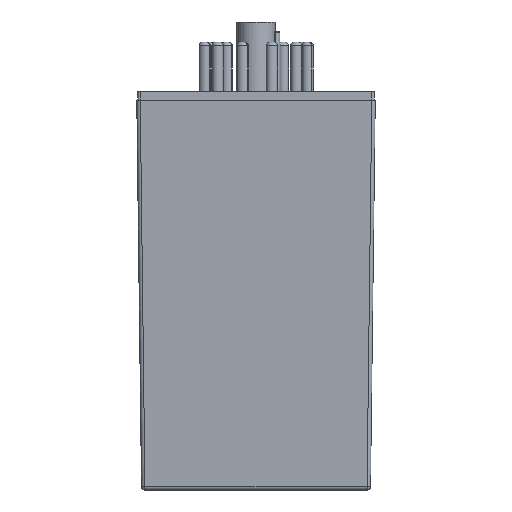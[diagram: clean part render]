
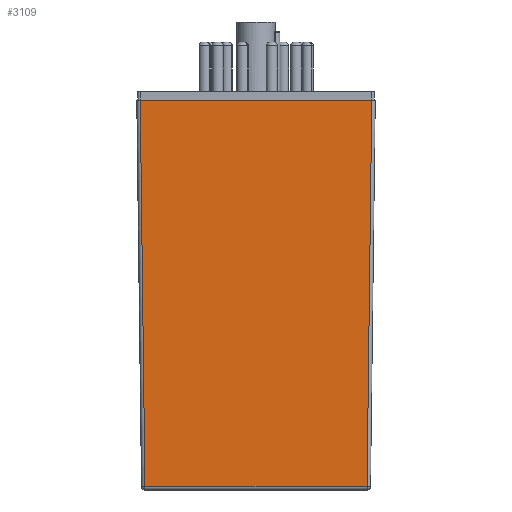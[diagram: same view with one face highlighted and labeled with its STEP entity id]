
A CAD part, front view. The second image highlights one B-rep face of the part: STEP entity #3109.
In plain terms, the highlighted planar face has unit normal (0, -1, -0.012).
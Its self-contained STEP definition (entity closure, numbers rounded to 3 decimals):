
#124 = CARTESIAN_POINT ( 'NONE',  ( 23.393, -24.093, -0.58 ) ) ;
#953 = VERTEX_POINT ( 'NONE', #3895 ) ;
#1058 = DIRECTION ( 'NONE',  ( 1., 0., 0. ) ) ;
#1077 = VECTOR ( 'NONE', #7723, 1000. ) ;
#1101 = DIRECTION ( 'NONE',  ( 1., 0., 0. ) ) ;
#1211 = CARTESIAN_POINT ( 'NONE',  ( -24.1, -24.1, 0. ) ) ;
#1794 = CARTESIAN_POINT ( 'NONE',  ( 23.137, -23.146, -78.109 ) ) ;
#1948 = EDGE_LOOP ( 'NONE', ( #7876, #7451, #8110, #4618 ) ) ;
#2153 = LINE ( 'NONE', #124, #5314 ) ;
#2578 = DIRECTION ( 'NONE',  ( 0., -1., -0.012 ) ) ;
#3109 = ADVANCED_FACE ( 'NONE', ( #6790 ), #6618, .T. ) ;
#3332 = VERTEX_POINT ( 'NONE', #8382 ) ;
#3699 = CARTESIAN_POINT ( 'NONE',  ( -23.4, -24.1, 0.009 ) ) ;
#3895 = CARTESIAN_POINT ( 'NONE',  ( 22.446, -23.146, -78.109 ) ) ;
#4109 = LINE ( 'NONE', #5798, #6132 ) ;
#4146 = DIRECTION ( 'NONE',  ( 0.012, -0.012, 1. ) ) ;
#4618 = ORIENTED_EDGE ( 'NONE', *, *, #4949, .T. ) ;
#4650 = AXIS2_PLACEMENT_3D ( 'NONE', #1211, #2578, #7292 ) ;
#4949 = EDGE_CURVE ( 'NONE', #953, #7290, #2153, .T. ) ;
#5100 = EDGE_CURVE ( 'NONE', #3332, #5347, #8010, .T. ) ;
#5198 = LINE ( 'NONE', #1794, #8518 ) ;
#5314 = VECTOR ( 'NONE', #4146, 1000. ) ;
#5347 = VERTEX_POINT ( 'NONE', #7971 ) ;
#5688 = EDGE_CURVE ( 'NONE', #5347, #953, #5198, .T. ) ;
#5798 = CARTESIAN_POINT ( 'NONE',  ( -24.1, -24.1, 0. ) ) ;
#6132 = VECTOR ( 'NONE', #1058, 1000. ) ;
#6459 = CARTESIAN_POINT ( 'NONE',  ( 23.4, -24.1, 0. ) ) ;
#6618 = PLANE ( 'NONE',  #4650 ) ;
#6790 = FACE_OUTER_BOUND ( 'NONE', #1948, .T. ) ;
#7290 = VERTEX_POINT ( 'NONE', #6459 ) ;
#7292 = DIRECTION ( 'NONE',  ( 0., 0.012, -1. ) ) ;
#7451 = ORIENTED_EDGE ( 'NONE', *, *, #5100, .T. ) ;
#7723 = DIRECTION ( 'NONE',  ( 0.012, 0.012, -1. ) ) ;
#7851 = EDGE_CURVE ( 'NONE', #3332, #7290, #4109, .T. ) ;
#7876 = ORIENTED_EDGE ( 'NONE', *, *, #7851, .F. ) ;
#7971 = CARTESIAN_POINT ( 'NONE',  ( -22.446, -23.146, -78.109 ) ) ;
#8010 = LINE ( 'NONE', #3699, #1077 ) ;
#8110 = ORIENTED_EDGE ( 'NONE', *, *, #5688, .T. ) ;
#8382 = CARTESIAN_POINT ( 'NONE',  ( -23.4, -24.1, 0. ) ) ;
#8518 = VECTOR ( 'NONE', #1101, 1000. ) ;
